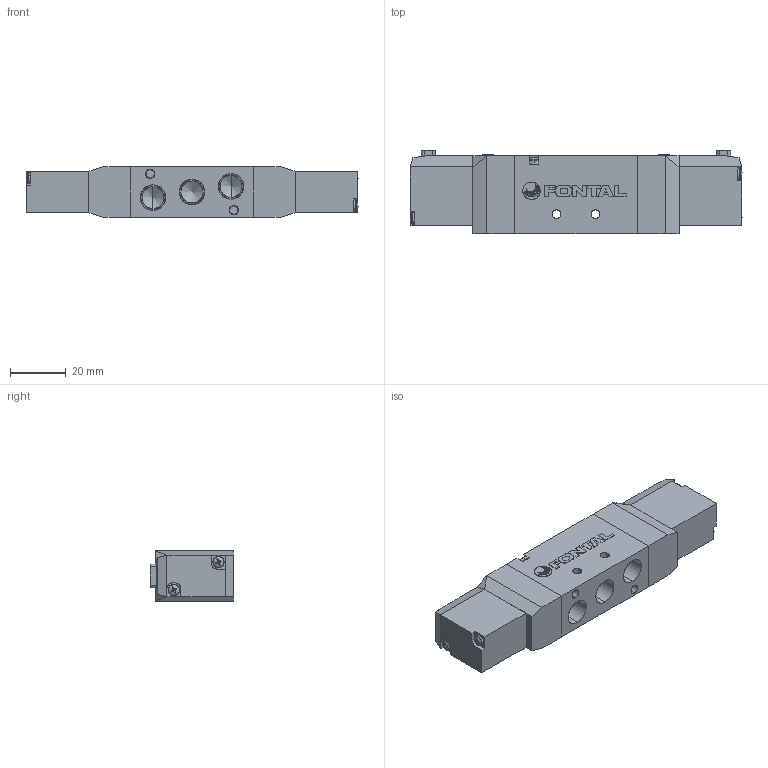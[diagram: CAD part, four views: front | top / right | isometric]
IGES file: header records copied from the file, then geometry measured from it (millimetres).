
Start section: SolidWorks IGES file using analytic representation for surfaces
Global section: file name: D:\Custom\3D繪製\PC\PC13\RCD2413-01-#-L-#.IGS,1; native system: 5HSolidWorks 2014; preprocessor: SolidWorks 2014; author: Chieh_Lu; date: 150915.184252; units: millimetre
Bounding box: 119.14 x 30 x 18.6 mm (x, y, z)
Surface area: 19122.6 mm2 (no closed solid volume)
Topology: 0 solids, 0 shells, 526 faces, 5126 edges, 5104 vertices
Faces by surface type: bspline 322, revolution 204
